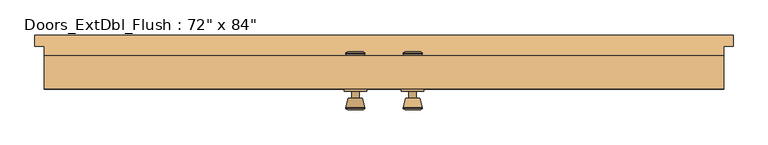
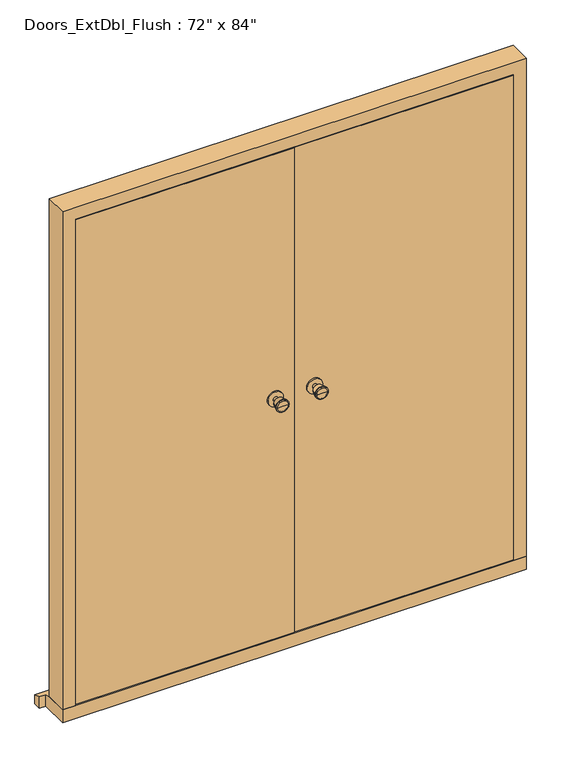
"""IFC4 building model written with IfcOpenShell, lengths in millimetres: door geometry."""

from ifc_helpers import new_model, si_unit, point, frame, frame_2d, origin, place, context, project, spatial, polyline, circle_curve, trimmed, segment, composite_curve, outline, extrude, faceted_brep, source, transform, mapped, element, save
from ifc_brep_helpers import plane_surface, cylinder_surface, revolved_surface, advanced_brep


def door_22bed100(model_context):
    return source(origin(), model_context, "Body", "SolidModel", [
        advanced_brep(
        [(-76.5, 5.0, 1050.0), (-66.5, 5.0, 1050.0), (-86.5, 5.0, 1050.0), (-96.9758676, -44.0, 1050.0), (-56.0241324, -44.0, 1050.0), (-76.5, -44.0, 1050.0), (-101.5, -42.1721319, 1050.0), (-51.5, -42.1721319, 1050.0), (-101.5, -38.7084537, 1050.0), (-51.5, -38.7084537, 1050.0), (-95.136236, -14.0, 1050.0), (-57.863764, -14.0, 1050.0), (-86.5, -14.0, 1050.0), (-66.5, -14.0, 1050.0)],
        [
            (0, 1),
            (1, 2, circle_curve(frame((-76.5, 5.0, 1050.0), z_axis=(0.0, 1.0, 0.0), x_axis=(1.0, 0.0, 0.0)), 10.0)),
            (2, 0),
            (2, 1, circle_curve(frame((-76.5, 5.0, 1050.0), z_axis=(0.0, 1.0, 0.0), x_axis=(1.0, 0.0, 0.0)), 10.0)),
            (3, 4, circle_curve(frame((-76.5, -44.0, 1050.0), z_axis=(0.0, -1.0, 0.0), x_axis=(1.0, 0.0, 0.0)), 20.4758676)),
            (4, 5),
            (5, 3),
            (4, 3, circle_curve(frame((-76.5, -44.0, 1050.0), z_axis=(0.0, -1.0, 0.0), x_axis=(1.0, 0.0, 0.0)), 20.4758676)),
            (6, 7, circle_curve(frame((-76.5, -42.1721319, 1050.0), z_axis=(0.0, -1.0, 0.0), x_axis=(1.0, 0.0, 0.0)), 25.0)),
            (7, 4),
            (3, 6),
            (7, 6, circle_curve(frame((-76.5, -42.1721319, 1050.0), z_axis=(0.0, -1.0, 0.0), x_axis=(1.0, 0.0, 0.0)), 25.0)),
            (8, 9, circle_curve(frame((-76.5, -38.7084537, 1050.0), z_axis=(0.0, -1.0, 0.0), x_axis=(1.0, 0.0, 0.0)), 25.0)),
            (9, 7),
            (6, 8),
            (9, 8, circle_curve(frame((-76.5, -38.7084537, 1050.0), z_axis=(0.0, -1.0, 0.0), x_axis=(1.0, 0.0, 0.0)), 25.0)),
            (10, 11, circle_curve(frame((-76.5, -14.0, 1050.0), z_axis=(0.0, -1.0, 0.0), x_axis=(1.0, 0.0, 0.0)), 18.636236)),
            (11, 9),
            (8, 10),
            (11, 10, circle_curve(frame((-76.5, -14.0, 1050.0), z_axis=(0.0, -1.0, 0.0), x_axis=(1.0, 0.0, 0.0)), 18.636236)),
            (12, 13, circle_curve(frame((-76.5, -14.0, 1050.0), z_axis=(0.0, -1.0, 0.0), x_axis=(1.0, 0.0, 0.0)), 10.0)),
            (13, 11),
            (10, 12),
            (13, 12, circle_curve(frame((-76.5, -14.0, 1050.0), z_axis=(0.0, -1.0, 0.0), x_axis=(1.0, 0.0, 0.0)), 10.0)),
            (1, 13),
            (12, 2),
        ],
        [
            plane_surface(frame((-76.5, 5.0, 1050.0), z_axis=(0.0, 1.0, 0.0), x_axis=(1.0, 0.0, 0.0))),
            plane_surface(frame((-76.5, -44.0, 1050.0), z_axis=(0.0, -1.0, 0.0), x_axis=(1.0, 0.0, 0.0))),
            revolved_surface(polyline([(-56.0241324, -44.0, 1050.0), (-51.5, -42.1721319, 1050.0)]), (-76.5, 5.0, 1050.0), (0.0, 1.0, 0.0)),
            cylinder_surface(frame((-76.5, 5.0, 1050.0), z_axis=(0.0, 1.0, 0.0), x_axis=(1.0, 0.0, 0.0)), 25.0),
            revolved_surface(polyline([(-51.5, -38.7084537, 1050.0), (-57.863764, -14.0, 1050.0)]), (-76.5, 5.0, 1050.0), (0.0, 1.0, 0.0)),
            plane_surface(frame((-76.5, -14.0, 1050.0), z_axis=(0.0, 1.0, 0.0), x_axis=(1.0, 0.0, 0.0))),
            cylinder_surface(frame((-76.5, 5.0, 1050.0), z_axis=(0.0, 1.0, 0.0), x_axis=(1.0, 0.0, 0.0)), 10.0),
        ],
        [
            (0, [[1, 2, 3]]),
            (0, [[-3, 4, -1]]),
            (1, [[5, 6, 7]]),
            (1, [[8, -7, -6]]),
            (2, [[9, 10, -5, 11]]),
            (2, [[12, -11, -8, -10]]),
            (3, [[13, 14, -9, 15]]),
            (3, [[16, -15, -12, -14]]),
            (4, [[17, 18, -13, 19]]),
            (4, [[20, -19, -16, -18]]),
            (5, [[21, 22, -17, 23]]),
            (5, [[24, -23, -20, -22]]),
            (6, [[-2, 25, -21, 26]]),
            (6, [[-4, -26, -24, -25]]),
        ],
    ),
        extrude(outline(composite_curve([segment(trimmed(circle_curve(frame_2d((1050.0, -76.5)), 30.0), [point((1050.0, -46.5))], [point((1050.0, -106.5))], False, "CARTESIAN"), True, "CONTINUOUS"), segment(trimmed(circle_curve(frame_2d((1050.0, -76.5)), 30.0), [point((1050.0, -106.5))], [point((1050.0, -46.5))], False, "CARTESIAN"), True, "CONTINUOUS")], self_intersect=False)), frame((0.0, 5.0, 0.0), z_axis=(0.0, 1.0, 0.0), x_axis=(0.0, 0.0, 1.0)), (0.0, 0.0, 1.0), 6.0),
        advanced_brep(
        [(-76.5, 61.0, 1050.0), (-86.5, 61.0, 1050.0), (-66.5, 61.0, 1050.0), (-96.9758676, 110.0, 1050.0), (-76.5, 110.0, 1050.0), (-56.0241324, 110.0, 1050.0), (-101.5, 108.1721319, 1050.0), (-51.5, 108.1721319, 1050.0), (-101.5, 104.7084537, 1050.0), (-51.5, 104.7084537, 1050.0), (-95.136236, 80.0, 1050.0), (-57.863764, 80.0, 1050.0), (-86.5, 80.0, 1050.0), (-66.5, 80.0, 1050.0)],
        [
            (0, 1),
            (1, 2, circle_curve(frame((-76.5, 61.0, 1050.0), z_axis=(0.0, -1.0, 0.0), x_axis=(1.0, 0.0, 0.0)), 10.0)),
            (2, 0),
            (2, 1, circle_curve(frame((-76.5, 61.0, 1050.0), z_axis=(0.0, -1.0, 0.0), x_axis=(1.0, 0.0, 0.0)), 10.0)),
            (3, 4),
            (4, 5),
            (5, 3, circle_curve(frame((-76.5, 110.0, 1050.0), z_axis=(0.0, 1.0, 0.0), x_axis=(1.0, 0.0, 0.0)), 20.4758676)),
            (3, 5, circle_curve(frame((-76.5, 110.0, 1050.0), z_axis=(0.0, 1.0, 0.0), x_axis=(1.0, 0.0, 0.0)), 20.4758676)),
            (6, 3),
            (5, 7),
            (7, 6, circle_curve(frame((-76.5, 108.1721319, 1050.0), z_axis=(0.0, 1.0, 0.0), x_axis=(1.0, 0.0, 0.0)), 25.0)),
            (6, 7, circle_curve(frame((-76.5, 108.1721319, 1050.0), z_axis=(0.0, 1.0, 0.0), x_axis=(1.0, 0.0, 0.0)), 25.0)),
            (8, 6),
            (7, 9),
            (9, 8, circle_curve(frame((-76.5, 104.7084537, 1050.0), z_axis=(0.0, 1.0, 0.0), x_axis=(1.0, 0.0, 0.0)), 25.0)),
            (8, 9, circle_curve(frame((-76.5, 104.7084537, 1050.0), z_axis=(0.0, 1.0, 0.0), x_axis=(1.0, 0.0, 0.0)), 25.0)),
            (10, 8),
            (9, 11),
            (11, 10, circle_curve(frame((-76.5, 80.0, 1050.0), z_axis=(0.0, 1.0, 0.0), x_axis=(1.0, 0.0, 0.0)), 18.636236)),
            (10, 11, circle_curve(frame((-76.5, 80.0, 1050.0), z_axis=(0.0, 1.0, 0.0), x_axis=(1.0, 0.0, 0.0)), 18.636236)),
            (12, 10),
            (11, 13),
            (13, 12, circle_curve(frame((-76.5, 80.0, 1050.0), z_axis=(0.0, 1.0, 0.0), x_axis=(1.0, 0.0, 0.0)), 10.0)),
            (12, 13, circle_curve(frame((-76.5, 80.0, 1050.0), z_axis=(0.0, 1.0, 0.0), x_axis=(1.0, 0.0, 0.0)), 10.0)),
            (1, 12),
            (13, 2),
        ],
        [
            plane_surface(frame((-76.5, 61.0, 1050.0), z_axis=(0.0, -1.0, 0.0), x_axis=(1.0, 0.0, 0.0))),
            plane_surface(frame((-76.5, 110.0, 1050.0), z_axis=(0.0, 1.0, 0.0), x_axis=(1.0, 0.0, 0.0))),
            revolved_surface(polyline([(-56.0241324, 110.0, 1050.0), (-51.5, 108.1721319, 1050.0)]), (-76.5, 61.0, 1050.0), (0.0, -1.0, 0.0)),
            cylinder_surface(frame((-76.5, 61.0, 1050.0), z_axis=(0.0, -1.0, 0.0), x_axis=(1.0, 0.0, 0.0)), 25.0),
            revolved_surface(polyline([(-51.5, 104.7084537, 1050.0), (-57.863764, 80.0, 1050.0)]), (-76.5, 61.0, 1050.0), (0.0, -1.0, 0.0)),
            plane_surface(frame((-76.5, 80.0, 1050.0), z_axis=(0.0, -1.0, 0.0), x_axis=(1.0, 0.0, 0.0))),
            cylinder_surface(frame((-76.5, 61.0, 1050.0), z_axis=(0.0, -1.0, 0.0), x_axis=(1.0, 0.0, 0.0)), 10.0),
        ],
        [
            (0, [[1, 2, 3]]),
            (0, [[-3, 4, -1]]),
            (1, [[5, 6, 7]]),
            (1, [[-6, -5, 8]]),
            (2, [[9, -7, 10, 11]]),
            (2, [[-10, -8, -9, 12]]),
            (3, [[13, -11, 14, 15]]),
            (3, [[-14, -12, -13, 16]]),
            (4, [[17, -15, 18, 19]]),
            (4, [[-18, -16, -17, 20]]),
            (5, [[21, -19, 22, 23]]),
            (5, [[-22, -20, -21, 24]]),
            (6, [[25, -23, 26, -2]]),
            (6, [[-26, -24, -25, -4]]),
        ],
    ),
        extrude(outline(composite_curve([segment(trimmed(circle_curve(frame_2d((1050.0, -76.5)), 30.0), [point((1050.0, -46.5))], [point((1050.0, -106.5))], False, "CARTESIAN"), True, "CONTINUOUS"), segment(trimmed(circle_curve(frame_2d((1050.0, -76.5)), 30.0), [point((1050.0, -106.5))], [point((1050.0, -46.5))], False, "CARTESIAN"), True, "CONTINUOUS")], self_intersect=False)), frame((0.0, 55.0, 0.0), z_axis=(0.0, 1.0, 0.0), x_axis=(0.0, 0.0, 1.0)), (0.0, 0.0, 1.0), 6.0),
        advanced_brep(
        [(76.5, 5.0, 1050.0), (86.5, 5.0, 1050.0), (66.5, 5.0, 1050.0), (96.9758676, -44.0, 1050.0), (76.5, -44.0, 1050.0), (56.0241324, -44.0, 1050.0), (101.5, -42.1721319, 1050.0), (51.5, -42.1721319, 1050.0), (101.5, -38.7084537, 1050.0), (51.5, -38.7084537, 1050.0), (95.136236, -14.0, 1050.0), (57.863764, -14.0, 1050.0), (86.5, -14.0, 1050.0), (66.5, -14.0, 1050.0)],
        [
            (0, 1),
            (1, 2, circle_curve(frame((76.5, 5.0, 1050.0), z_axis=(0.0, 1.0, 0.0), x_axis=(-1.0, 0.0, 0.0)), 10.0)),
            (2, 0),
            (2, 1, circle_curve(frame((76.5, 5.0, 1050.0), z_axis=(0.0, 1.0, 0.0), x_axis=(-1.0, 0.0, 0.0)), 10.0)),
            (3, 4),
            (4, 5),
            (5, 3, circle_curve(frame((76.5, -44.0, 1050.0), z_axis=(0.0, -1.0, 0.0), x_axis=(-1.0, 0.0, 0.0)), 20.4758676)),
            (3, 5, circle_curve(frame((76.5, -44.0, 1050.0), z_axis=(0.0, -1.0, 0.0), x_axis=(-1.0, 0.0, 0.0)), 20.4758676)),
            (6, 3),
            (5, 7),
            (7, 6, circle_curve(frame((76.5, -42.1721319, 1050.0), z_axis=(0.0, -1.0, 0.0), x_axis=(-1.0, 0.0, 0.0)), 25.0)),
            (6, 7, circle_curve(frame((76.5, -42.1721319, 1050.0), z_axis=(0.0, -1.0, 0.0), x_axis=(-1.0, 0.0, 0.0)), 25.0)),
            (8, 6),
            (7, 9),
            (9, 8, circle_curve(frame((76.5, -38.7084537, 1050.0), z_axis=(0.0, -1.0, 0.0), x_axis=(-1.0, 0.0, 0.0)), 25.0)),
            (8, 9, circle_curve(frame((76.5, -38.7084537, 1050.0), z_axis=(0.0, -1.0, 0.0), x_axis=(-1.0, 0.0, 0.0)), 25.0)),
            (10, 8),
            (9, 11),
            (11, 10, circle_curve(frame((76.5, -14.0, 1050.0), z_axis=(0.0, -1.0, 0.0), x_axis=(-1.0, 0.0, 0.0)), 18.636236)),
            (10, 11, circle_curve(frame((76.5, -14.0, 1050.0), z_axis=(0.0, -1.0, 0.0), x_axis=(-1.0, 0.0, 0.0)), 18.636236)),
            (12, 10),
            (11, 13),
            (13, 12, circle_curve(frame((76.5, -14.0, 1050.0), z_axis=(0.0, -1.0, 0.0), x_axis=(-1.0, 0.0, 0.0)), 10.0)),
            (12, 13, circle_curve(frame((76.5, -14.0, 1050.0), z_axis=(0.0, -1.0, 0.0), x_axis=(-1.0, 0.0, 0.0)), 10.0)),
            (1, 12),
            (13, 2),
        ],
        [
            plane_surface(frame((76.5, 5.0, 1050.0), z_axis=(0.0, 1.0, 0.0), x_axis=(-1.0, 0.0, 0.0))),
            plane_surface(frame((76.5, -44.0, 1050.0), z_axis=(0.0, -1.0, 0.0), x_axis=(-1.0, 0.0, 0.0))),
            revolved_surface(polyline([(56.0241324, -44.0, 1050.0), (51.5, -42.1721319, 1050.0)]), (76.5, 5.0, 1050.0), (0.0, 1.0, 0.0)),
            cylinder_surface(frame((76.5, 5.0, 1050.0), z_axis=(0.0, 1.0, 0.0), x_axis=(-1.0, 0.0, 0.0)), 25.0),
            revolved_surface(polyline([(51.5, -38.7084537, 1050.0), (57.863764, -14.0, 1050.0)]), (76.5, 5.0, 1050.0), (0.0, 1.0, 0.0)),
            plane_surface(frame((76.5, -14.0, 1050.0), z_axis=(0.0, 1.0, 0.0), x_axis=(-1.0, 0.0, 0.0))),
            cylinder_surface(frame((76.5, 5.0, 1050.0), z_axis=(0.0, 1.0, 0.0), x_axis=(-1.0, 0.0, 0.0)), 10.0),
        ],
        [
            (0, [[1, 2, 3]]),
            (0, [[-3, 4, -1]]),
            (1, [[5, 6, 7]]),
            (1, [[-6, -5, 8]]),
            (2, [[9, -7, 10, 11]]),
            (2, [[-10, -8, -9, 12]]),
            (3, [[13, -11, 14, 15]]),
            (3, [[-14, -12, -13, 16]]),
            (4, [[17, -15, 18, 19]]),
            (4, [[-18, -16, -17, 20]]),
            (5, [[21, -19, 22, 23]]),
            (5, [[-22, -20, -21, 24]]),
            (6, [[25, -23, 26, -2]]),
            (6, [[-26, -24, -25, -4]]),
        ],
    ),
        extrude(outline(composite_curve([segment(trimmed(circle_curve(frame_2d((1050.0, 76.5)), 30.0), [point((1050.0, 46.5))], [point((1050.0, 106.5))], False, "CARTESIAN"), True, "CONTINUOUS"), segment(trimmed(circle_curve(frame_2d((1050.0, 76.5)), 30.0), [point((1050.0, 106.5))], [point((1050.0, 46.5))], False, "CARTESIAN"), True, "CONTINUOUS")], self_intersect=False)), frame((0.0, 5.0, 0.0), z_axis=(0.0, 1.0, 0.0), x_axis=(0.0, 0.0, 1.0)), (0.0, 0.0, 1.0), 6.0),
        advanced_brep(
        [(76.5, 61.0, 1050.0), (66.5, 61.0, 1050.0), (86.5, 61.0, 1050.0), (96.9758676, 110.0, 1050.0), (56.0241324, 110.0, 1050.0), (76.5, 110.0, 1050.0), (101.5, 108.1721319, 1050.0), (51.5, 108.1721319, 1050.0), (101.5, 104.7084537, 1050.0), (51.5, 104.7084537, 1050.0), (95.136236, 80.0, 1050.0), (57.863764, 80.0, 1050.0), (86.5, 80.0, 1050.0), (66.5, 80.0, 1050.0)],
        [
            (0, 1),
            (1, 2, circle_curve(frame((76.5, 61.0, 1050.0), z_axis=(0.0, -1.0, 0.0), x_axis=(-1.0, 0.0, 0.0)), 10.0)),
            (2, 0),
            (2, 1, circle_curve(frame((76.5, 61.0, 1050.0), z_axis=(0.0, -1.0, 0.0), x_axis=(-1.0, 0.0, 0.0)), 10.0)),
            (3, 4, circle_curve(frame((76.5, 110.0, 1050.0), z_axis=(0.0, 1.0, 0.0), x_axis=(-1.0, 0.0, 0.0)), 20.4758676)),
            (4, 5),
            (5, 3),
            (4, 3, circle_curve(frame((76.5, 110.0, 1050.0), z_axis=(0.0, 1.0, 0.0), x_axis=(-1.0, 0.0, 0.0)), 20.4758676)),
            (6, 7, circle_curve(frame((76.5, 108.1721319, 1050.0), z_axis=(0.0, 1.0, 0.0), x_axis=(-1.0, 0.0, 0.0)), 25.0)),
            (7, 4),
            (3, 6),
            (7, 6, circle_curve(frame((76.5, 108.1721319, 1050.0), z_axis=(0.0, 1.0, 0.0), x_axis=(-1.0, 0.0, 0.0)), 25.0)),
            (8, 9, circle_curve(frame((76.5, 104.7084537, 1050.0), z_axis=(0.0, 1.0, 0.0), x_axis=(-1.0, 0.0, 0.0)), 25.0)),
            (9, 7),
            (6, 8),
            (9, 8, circle_curve(frame((76.5, 104.7084537, 1050.0), z_axis=(0.0, 1.0, 0.0), x_axis=(-1.0, 0.0, 0.0)), 25.0)),
            (10, 11, circle_curve(frame((76.5, 80.0, 1050.0), z_axis=(0.0, 1.0, 0.0), x_axis=(-1.0, 0.0, 0.0)), 18.636236)),
            (11, 9),
            (8, 10),
            (11, 10, circle_curve(frame((76.5, 80.0, 1050.0), z_axis=(0.0, 1.0, 0.0), x_axis=(-1.0, 0.0, 0.0)), 18.636236)),
            (12, 13, circle_curve(frame((76.5, 80.0, 1050.0), z_axis=(0.0, 1.0, 0.0), x_axis=(-1.0, 0.0, 0.0)), 10.0)),
            (13, 11),
            (10, 12),
            (13, 12, circle_curve(frame((76.5, 80.0, 1050.0), z_axis=(0.0, 1.0, 0.0), x_axis=(-1.0, 0.0, 0.0)), 10.0)),
            (1, 13),
            (12, 2),
        ],
        [
            plane_surface(frame((76.5, 61.0, 1050.0), z_axis=(0.0, -1.0, 0.0), x_axis=(-1.0, 0.0, 0.0))),
            plane_surface(frame((76.5, 110.0, 1050.0), z_axis=(0.0, 1.0, 0.0), x_axis=(-1.0, 0.0, 0.0))),
            revolved_surface(polyline([(56.0241324, 110.0, 1050.0), (51.5, 108.1721319, 1050.0)]), (76.5, 61.0, 1050.0), (0.0, -1.0, 0.0)),
            cylinder_surface(frame((76.5, 61.0, 1050.0), z_axis=(0.0, -1.0, 0.0), x_axis=(-1.0, 0.0, 0.0)), 25.0),
            revolved_surface(polyline([(51.5, 104.7084537, 1050.0), (57.863764, 80.0, 1050.0)]), (76.5, 61.0, 1050.0), (0.0, -1.0, 0.0)),
            plane_surface(frame((76.5, 80.0, 1050.0), z_axis=(0.0, -1.0, 0.0), x_axis=(-1.0, 0.0, 0.0))),
            cylinder_surface(frame((76.5, 61.0, 1050.0), z_axis=(0.0, -1.0, 0.0), x_axis=(-1.0, 0.0, 0.0)), 10.0),
        ],
        [
            (0, [[1, 2, 3]]),
            (0, [[-3, 4, -1]]),
            (1, [[5, 6, 7]]),
            (1, [[8, -7, -6]]),
            (2, [[9, 10, -5, 11]]),
            (2, [[12, -11, -8, -10]]),
            (3, [[13, 14, -9, 15]]),
            (3, [[16, -15, -12, -14]]),
            (4, [[17, 18, -13, 19]]),
            (4, [[20, -19, -16, -18]]),
            (5, [[21, 22, -17, 23]]),
            (5, [[24, -23, -20, -22]]),
            (6, [[-2, 25, -21, 26]]),
            (6, [[-4, -26, -24, -25]]),
        ],
    ),
        extrude(outline(composite_curve([segment(trimmed(circle_curve(frame_2d((1050.0, 76.5)), 30.0), [point((1050.0, 46.5))], [point((1050.0, 106.5))], False, "CARTESIAN"), True, "CONTINUOUS"), segment(trimmed(circle_curve(frame_2d((1050.0, 76.5)), 30.0), [point((1050.0, 106.5))], [point((1050.0, 46.5))], False, "CARTESIAN"), True, "CONTINUOUS")], self_intersect=False)), frame((0.0, 55.0, 0.0), z_axis=(0.0, 1.0, 0.0), x_axis=(0.0, 0.0, 1.0)), (0.0, 0.0, 1.0), 6.0),
        faceted_brep([(834.5, 100.0, 54.5), (905.0, 100.0, 54.5), (905.0, 11.0, 54.5), (856.5, 11.0, 54.5), (856.5, 58.0, 54.5), (834.5, 58.0, 54.5), (834.5, 100.0, 2039.5), (-834.5, 100.0, 2039.5), (-834.5, 100.0, 54.5), (-905.0, 100.0, 54.5), (-905.0, 100.0, 2110.0), (905.0, 100.0, 2110.0), (905.0, 11.0, 2110.0), (-905.0, 11.0, 2110.0), (-905.0, 11.0, 54.5), (-856.5, 11.0, 54.5), (-856.5, 11.0, 2061.5), (856.5, 11.0, 2061.5), (856.5, 58.0, 2061.5), (-856.5, 58.0, 2061.5), (-856.5, 58.0, 54.5), (-834.5, 58.0, 54.5), (-834.5, 58.0, 2039.5), (834.5, 58.0, 2039.5)], [[[0, 1, 2, 3, 4, 5]], [[1, 0, 6, 7, 8, 9, 10, 11]], [[2, 1, 11, 12]], [[3, 2, 12, 13, 14, 15, 16, 17]], [[4, 3, 17, 18]], [[5, 4, 18, 19, 20, 21, 22, 23]], [[0, 5, 23, 6]], [[12, 11, 10, 13]], [[18, 17, 16, 19]], [[6, 23, 22, 7]], [[8, 21, 20, 15, 14, 9]], [[13, 10, 9, 14]], [[19, 16, 15, 20]], [[7, 22, 21, 8]]]),
        faceted_brep([(930.0, 155.0, 0.0), (930.0, 155.0, 38.5947221), (930.0, 125.0, 47.2703282), (930.0, 125.0, 0.0), (-930.0, 155.0, 38.5947221), (-930.0, 155.0, 0.0), (-930.0, 125.0, 0.0), (-930.0, 125.0, 47.2703282), (905.0, 125.0, 0.0), (905.0, 11.0, 0.0), (-905.0, 11.0, 0.0), (-905.0, 125.0, 0.0), (-905.0, 125.0, 47.2703282), (-905.0, 100.0, 54.5), (905.0, 100.0, 54.5), (905.0, 125.0, 47.2703282), (-905.0, 11.0, 54.5), (905.0, 11.0, 54.5)], [[[0, 1, 2, 3]], [[4, 5, 6, 7]], [[5, 0, 3, 8, 9, 10, 11, 6]], [[1, 0, 5, 4]], [[1, 4, 7, 12, 13, 14, 15, 2]], [[13, 16, 17, 14]], [[16, 10, 9, 17]], [[12, 11, 10, 16, 13]], [[11, 12, 7, 6]], [[8, 15, 14, 17, 9]], [[15, 8, 3, 2]]]),
        extrude(outline(polyline([(853.5, 11.0), (1.5, 11.0), (1.5, 55.0), (853.5, 55.0), (853.5, 11.0)])), frame((0.0, 0.0, 58.5), z_axis=(0.0, 0.0, 1.0), x_axis=(1.0, 0.0, 0.0)), (0.0, 0.0, 1.0), 2000.0),
        extrude(outline(polyline([(-1.5, 11.0), (-853.5, 11.0), (-853.5, 55.0), (-1.5, 55.0), (-1.5, 11.0)])), frame((0.0, 0.0, 58.5), z_axis=(0.0, 0.0, 1.0), x_axis=(1.0, 0.0, 0.0)), (0.0, 0.0, 1.0), 2000.0),
    ])


if __name__ == "__main__":
    model = new_model("IFC4")
    model_context = context("Model", 3, world=origin())
    ifc_project = project(units=[si_unit("LENGTHUNIT", "METRE", prefix="MILLI")], contexts=[model_context])
    site = spatial("IfcSite", under=ifc_project)
    building = spatial("IfcBuilding", under=site)
    placement = place(None, origin())
    door_shape = door_22bed100(model_context)
    element("IfcDoor", 1, ObjectType="Doors_ExtDbl_Flush : 72\" x 84\"", at=placement, inside=building, context=model_context, shape_type="MappedRepresentation", body=[
        mapped(door_shape, transform((0.0, 0.0, 0.0), x_axis=(1.0, 0.0, 0.0), y_axis=(0.0, 1.0, 0.0), z_axis=(0.0, 0.0, 1.0))),
    ])
    save(model, "model.ifc")
